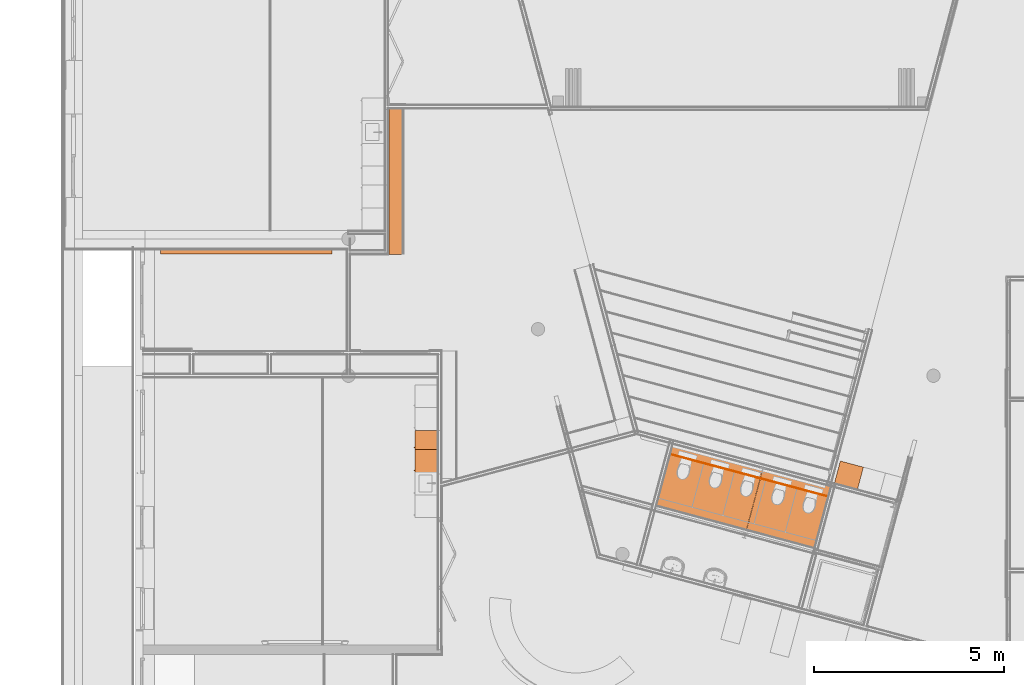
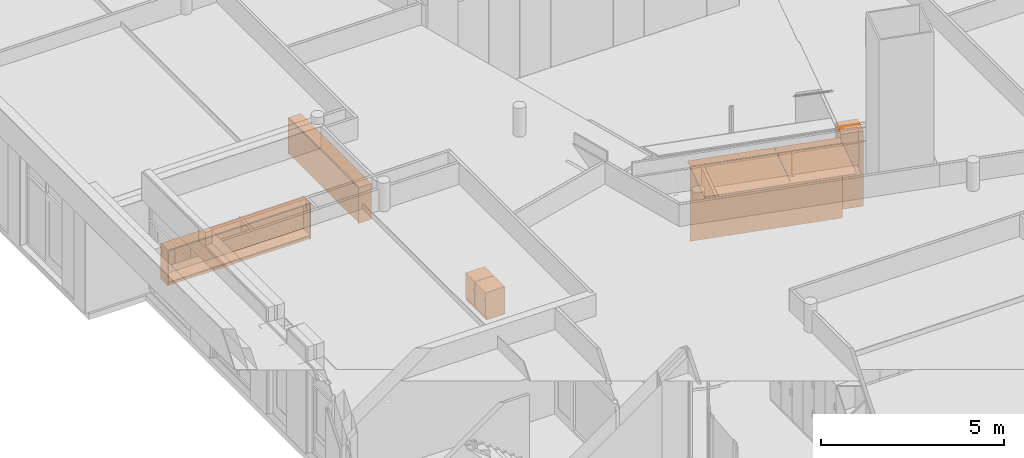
# One storey, part 124 of 167: 7 proxies.
"""IFC2X3 building model written with IfcOpenShell, lengths in millimetres."""

from ifc_helpers import new_model, entity, si_unit, converted_unit, derived_unit, money_unit, direction, frame, origin_with_axes, place, context, subcontext, project, spatial, faceted_brep, material, type_object, element, save


model = new_model("IFC2X3")

# Units and contexts
model_context = context("Model", 3, precision=0.01, world=origin_with_axes(), true_north=direction((0.0, 1.0)))
plan_context = context("Plan", 3, precision=0.01, world=origin_with_axes(), true_north=direction((0.0, 1.0)))
body_context = subcontext(model_context, "Body", "Model", "MODEL_VIEW")
ifc_project = project(units=[si_unit("LENGTHUNIT", "METRE", prefix="MILLI"), si_unit("AREAUNIT", "SQUARE_METRE"), si_unit("VOLUMEUNIT", "CUBIC_METRE"), converted_unit("PLANEANGLEUNIT", "DEGREE", entity("IfcPlaneAngleMeasure", 0.0174532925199), si_unit("PLANEANGLEUNIT", "RADIAN"), dimensions=[0, 0, 0, 0, 0, 0, 0]), si_unit("SOLIDANGLEUNIT", "STERADIAN"), money_unit("EUR"), converted_unit("TIMEUNIT", "Year", entity("IfcTimeMeasure", 31556926.0), si_unit("TIMEUNIT", "SECOND"), dimensions=[0, 0, 1, 0, 0, 0, 0]), si_unit("MASSUNIT", "GRAM", prefix="KILO"), si_unit("THERMODYNAMICTEMPERATUREUNIT", "DEGREE_CELSIUS"), si_unit("LUMINOUSINTENSITYUNIT", "LUMEN"), si_unit("ENERGYUNIT", "JOULE", prefix="MEGA"), derived_unit("THERMALCONDUCTANCEUNIT", [(si_unit("POWERUNIT", "WATT"), 1), (si_unit("LENGTHUNIT", "METRE"), -1), (si_unit("THERMODYNAMICTEMPERATUREUNIT", "KELVIN"), -1)]), derived_unit("SPECIFICHEATCAPACITYUNIT", [(si_unit("ENERGYUNIT", "JOULE"), 1), (si_unit("MASSUNIT", "GRAM", prefix="KILO"), -1), (si_unit("THERMODYNAMICTEMPERATUREUNIT", "KELVIN"), -1)]), derived_unit("MASSDENSITYUNIT", [(si_unit("MASSUNIT", "GRAM", prefix="KILO"), 1), (si_unit("VOLUMEUNIT", "CUBIC_METRE"), -1)])], contexts=[model_context, plan_context])

# Site, building, storey
site_placement = place(None, origin_with_axes())
site = spatial("IfcSite", under=ifc_project, at=site_placement, Name="Site", CompositionType="ELEMENT")
building_placement = place(site_placement, origin_with_axes())
building = spatial("IfcBuilding", under=site, at=building_placement, Name="Naam gebouw", CompositionType="ELEMENT")
storey_placement = place(building_placement, origin_with_axes())
storey = spatial("IfcBuildingStorey", under=building, at=storey_placement, Name="Begane grond", CompositionType="ELEMENT", Elevation=0.0)

# Proxies
building_element_proxy_type_1 = type_object("IfcBuildingElementProxyType", Name="Kast basis 1D 24", PredefinedType="NOTDEFINED")
proxy_1_placement = place(storey_placement, frame((8950.0, 16561.0, 0.0), z_axis=(0.0, 0.0, 1.0), x_axis=(0.0, -1.0, 0.0)))
element("IfcBuildingElementProxy", 1, at=proxy_1_placement, inside=storey, type_object=building_element_proxy_type_1, Name="__Object-x", context=body_context, shape_type="Brep", body=[
    faceted_brep([(0.0, 20.0, 0.0), (500.0, 20.0, 0.0), (500.0, 20.0, 100.0), (0.0, 20.0, 100.0), (0.0, 600.0, 0.0), (500.0, 600.0, 0.0), (500.0, 600.0, 100.0), (0.0, 600.0, 100.0)], [[[0, 1, 2, 3]], [[0, 4, 5, 1]], [[1, 5, 6, 2]], [[3, 2, 6, 7]], [[4, 0, 3, 7]], [[5, 4, 7, 6]]]),
    faceted_brep([(0.0, 20.0, 880.0), (20.0, 20.0, 880.0), (20.0, 20.0, 900.0), (0.0, 20.0, 900.0), (0.0, 600.0, 880.0), (20.0, 600.0, 880.0), (480.0, 600.0, 880.0), (500.0, 600.0, 880.0), (500.0, 20.0, 880.0), (480.0, 20.0, 880.0), (480.0, 20.0, 900.0), (500.0, 20.0, 900.0), (500.0, 600.0, 900.0), (480.0, 600.0, 900.0), (20.0, 600.0, 900.0), (0.0, 600.0, 900.0)], [[[0, 1, 2, 3]], [[0, 4, 5, 6, 7, 8, 9, 1]], [[1, 9, 10, 2]], [[3, 2, 10, 11, 12, 13, 14, 15]], [[4, 0, 3, 15]], [[5, 4, 15, 14]], [[6, 5, 14, 13]], [[7, 6, 13, 12]], [[8, 7, 12, 11]], [[9, 8, 11, 10]]]),
    faceted_brep([(0.0, 20.0, 100.0), (20.0, 20.0, 100.0), (20.0, 20.0, 120.0), (0.0, 20.0, 120.0), (0.0, 600.0, 100.0), (20.0, 600.0, 100.0), (480.0, 600.0, 100.0), (500.0, 600.0, 100.0), (500.0, 20.0, 100.0), (480.0, 20.0, 100.0), (480.0, 20.0, 120.0), (500.0, 20.0, 120.0), (500.0, 600.0, 120.0), (480.0, 600.0, 120.0), (20.0, 600.0, 120.0), (0.0, 600.0, 120.0)], [[[0, 1, 2, 3]], [[0, 4, 5, 6, 7, 8, 9, 1]], [[1, 9, 10, 2]], [[3, 2, 10, 11, 12, 13, 14, 15]], [[4, 0, 3, 15]], [[5, 4, 15, 14]], [[6, 5, 14, 13]], [[7, 6, 13, 12]], [[8, 7, 12, 11]], [[9, 8, 11, 10]]]),
    faceted_brep([(0.0, 20.0, 120.0), (20.0, 20.0, 120.0), (20.0, 20.0, 880.0), (0.0, 20.0, 880.0), (0.0, 600.0, 120.0), (500.0, 600.0, 120.0), (500.0, 20.0, 120.0), (480.0, 20.0, 120.0), (480.0, 580.0, 120.0), (20.0, 580.0, 120.0), (20.0, 580.0, 880.0), (480.0, 580.0, 880.0), (480.0, 20.0, 880.0), (500.0, 20.0, 880.0), (500.0, 600.0, 880.0), (0.0, 600.0, 880.0)], [[[0, 1, 2, 3]], [[0, 4, 5, 6, 7, 8, 9, 1]], [[1, 9, 10, 2]], [[3, 2, 10, 11, 12, 13, 14, 15]], [[4, 0, 3, 15]], [[5, 4, 15, 14]], [[6, 5, 14, 13]], [[7, 6, 13, 12]], [[8, 7, 12, 11]], [[9, 8, 11, 10]]]),
    faceted_brep([(480.0, 20.0, 480.0), (480.0, 580.0, 480.0), (480.0, 580.0, 500.0), (480.0, 20.0, 500.0), (20.0, 20.0, 480.0), (20.0, 580.0, 480.0), (20.0, 580.0, 500.0), (20.0, 20.0, 500.0)], [[[0, 1, 2, 3]], [[0, 4, 5, 1]], [[1, 5, 6, 2]], [[3, 2, 6, 7]], [[4, 0, 3, 7]], [[5, 4, 7, 6]]]),
    faceted_brep([(0.0, 0.0, 900.0), (500.0, 0.0, 900.0), (500.0, 0.0, 920.0), (0.0, 0.0, 920.0), (0.0, 600.0, 900.0), (500.0, 600.0, 900.0), (500.0, 600.0, 920.0), (0.0, 600.0, 920.0)], [[[0, 1, 2, 3]], [[0, 4, 5, 1]], [[1, 5, 6, 2]], [[3, 2, 6, 7]], [[4, 0, 3, 7]], [[5, 4, 7, 6]]]),
    faceted_brep([(1.5, 20.0, 101.5), (498.5, 20.0, 101.5), (498.5, 0.0, 101.5), (1.5, 0.0, 101.5), (1.5, 20.0, 898.5), (498.5, 20.0, 898.5), (498.5, 0.0, 898.5), (1.5, 0.0, 898.5)], [[[0, 1, 2, 3]], [[0, 4, 5, 1]], [[1, 5, 6, 2]], [[3, 2, 6, 7]], [[4, 0, 3, 7]], [[5, 4, 7, 6]]]),
    faceted_brep([(459.58655439, 0.0, 636.907798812), (456.985281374, 0.0, 633.014718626), (453.092201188, 0.0, 630.41344561), (448.5, 0.0, 629.5), (443.907798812, 0.0, 630.41344561), (440.014718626, 0.0, 633.014718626), (437.41344561, 0.0, 636.907798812), (436.5, 0.0, 641.5), (437.41344561, 0.0, 646.092201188), (440.014718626, 0.0, 649.985281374), (443.907798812, 0.0, 652.58655439), (448.5, 0.0, 653.5), (453.092201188, 0.0, 652.58655439), (456.985281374, 0.0, 649.985281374), (459.58655439, 0.0, 646.092201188), (460.5, 0.0, 641.5), (459.58655439, -25.0, 636.907798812), (456.985281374, -25.0, 633.014718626), (453.092201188, -25.0, 630.41344561), (448.5, -25.0, 629.5), (443.907798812, -25.0, 630.41344561), (440.014718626, -25.0, 633.014718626), (437.41344561, -25.0, 636.907798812), (436.5, -25.0, 641.5), (437.41344561, -25.0, 646.092201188), (440.014718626, -25.0, 649.985281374), (443.907798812, -25.0, 652.58655439), (448.5, -25.0, 653.5), (453.092201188, -25.0, 652.58655439), (456.985281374, -25.0, 649.985281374), (459.58655439, -25.0, 646.092201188), (460.5, -25.0, 641.5)], [[[0, 1, 2, 3, 4, 5, 6, 7, 8, 9, 10, 11, 12, 13, 14, 15]], [[1, 0, 16, 17]], [[2, 1, 17, 18]], [[3, 2, 18, 19]], [[4, 3, 19, 20]], [[5, 4, 20, 21]], [[6, 5, 21, 22]], [[7, 6, 22, 23]], [[8, 7, 23, 24]], [[9, 8, 24, 25]], [[10, 9, 25, 26]], [[11, 10, 26, 27]], [[12, 11, 27, 28]], [[13, 12, 28, 29]], [[14, 13, 29, 30]], [[15, 14, 30, 31]], [[0, 15, 31, 16]], [[16, 31, 30, 29, 28, 27, 26, 25, 24, 23, 22, 21, 20, 19, 18, 17]]]),
])
proxy_2_placement = place(storey_placement, frame((8950.0, 16061.0, 0.0), z_axis=(0.0, 0.0, 1.0), x_axis=(0.0, -1.0, 0.0)))
element("IfcBuildingElementProxy", 2, at=proxy_2_placement, inside=storey, type_object=building_element_proxy_type_1, Name="__Object-x", context=body_context, shape_type="Brep", body=[
    faceted_brep([(0.0, 20.0, 0.0), (600.0, 20.0, 0.0), (600.0, 20.0, 100.0), (0.0, 20.0, 100.0), (0.0, 600.0, 0.0), (600.0, 600.0, 0.0), (600.0, 600.0, 100.0), (0.0, 600.0, 100.0)], [[[0, 1, 2, 3]], [[0, 4, 5, 1]], [[1, 5, 6, 2]], [[3, 2, 6, 7]], [[4, 0, 3, 7]], [[5, 4, 7, 6]]]),
    faceted_brep([(0.0, 20.0, 880.0), (20.0, 20.0, 880.0), (20.0, 20.0, 900.0), (0.0, 20.0, 900.0), (0.0, 600.0, 880.0), (20.0, 600.0, 880.0), (580.0, 600.0, 880.0), (600.0, 600.0, 880.0), (600.0, 20.0, 880.0), (580.0, 20.0, 880.0), (580.0, 20.0, 900.0), (600.0, 20.0, 900.0), (600.0, 600.0, 900.0), (580.0, 600.0, 900.0), (20.0, 600.0, 900.0), (0.0, 600.0, 900.0)], [[[0, 1, 2, 3]], [[0, 4, 5, 6, 7, 8, 9, 1]], [[1, 9, 10, 2]], [[3, 2, 10, 11, 12, 13, 14, 15]], [[4, 0, 3, 15]], [[5, 4, 15, 14]], [[6, 5, 14, 13]], [[7, 6, 13, 12]], [[8, 7, 12, 11]], [[9, 8, 11, 10]]]),
    faceted_brep([(0.0, 20.0, 100.0), (20.0, 20.0, 100.0), (20.0, 20.0, 120.0), (0.0, 20.0, 120.0), (0.0, 600.0, 100.0), (20.0, 600.0, 100.0), (580.0, 600.0, 100.0), (600.0, 600.0, 100.0), (600.0, 20.0, 100.0), (580.0, 20.0, 100.0), (580.0, 20.0, 120.0), (600.0, 20.0, 120.0), (600.0, 600.0, 120.0), (580.0, 600.0, 120.0), (20.0, 600.0, 120.0), (0.0, 600.0, 120.0)], [[[0, 1, 2, 3]], [[0, 4, 5, 6, 7, 8, 9, 1]], [[1, 9, 10, 2]], [[3, 2, 10, 11, 12, 13, 14, 15]], [[4, 0, 3, 15]], [[5, 4, 15, 14]], [[6, 5, 14, 13]], [[7, 6, 13, 12]], [[8, 7, 12, 11]], [[9, 8, 11, 10]]]),
    faceted_brep([(0.0, 20.0, 120.0), (20.0, 20.0, 120.0), (20.0, 20.0, 880.0), (0.0, 20.0, 880.0), (0.0, 600.0, 120.0), (600.0, 600.0, 120.0), (600.0, 20.0, 120.0), (580.0, 20.0, 120.0), (580.0, 580.0, 120.0), (20.0, 580.0, 120.0), (20.0, 580.0, 880.0), (580.0, 580.0, 880.0), (580.0, 20.0, 880.0), (600.0, 20.0, 880.0), (600.0, 600.0, 880.0), (0.0, 600.0, 880.0)], [[[0, 1, 2, 3]], [[0, 4, 5, 6, 7, 8, 9, 1]], [[1, 9, 10, 2]], [[3, 2, 10, 11, 12, 13, 14, 15]], [[4, 0, 3, 15]], [[5, 4, 15, 14]], [[6, 5, 14, 13]], [[7, 6, 13, 12]], [[8, 7, 12, 11]], [[9, 8, 11, 10]]]),
    faceted_brep([(580.0, 20.0, 480.0), (580.0, 580.0, 480.0), (580.0, 580.0, 500.0), (580.0, 20.0, 500.0), (20.0, 20.0, 480.0), (20.0, 580.0, 480.0), (20.0, 580.0, 500.0), (20.0, 20.0, 500.0)], [[[0, 1, 2, 3]], [[0, 4, 5, 1]], [[1, 5, 6, 2]], [[3, 2, 6, 7]], [[4, 0, 3, 7]], [[5, 4, 7, 6]]]),
    faceted_brep([(0.0, 0.0, 900.0), (600.0, 0.0, 900.0), (600.0, 0.0, 920.0), (0.0, 0.0, 920.0), (0.0, 600.0, 900.0), (600.0, 600.0, 900.0), (600.0, 600.0, 920.0), (0.0, 600.0, 920.0)], [[[0, 1, 2, 3]], [[0, 4, 5, 1]], [[1, 5, 6, 2]], [[3, 2, 6, 7]], [[4, 0, 3, 7]], [[5, 4, 7, 6]]]),
    faceted_brep([(1.5, 20.0, 101.5), (598.5, 20.0, 101.5), (598.5, 0.0, 101.5), (1.5, 0.0, 101.5), (1.5, 20.0, 898.5), (598.5, 20.0, 898.5), (598.5, 0.0, 898.5), (1.5, 0.0, 898.5)], [[[0, 1, 2, 3]], [[0, 4, 5, 1]], [[1, 5, 6, 2]], [[3, 2, 6, 7]], [[4, 0, 3, 7]], [[5, 4, 7, 6]]]),
    faceted_brep([(559.58655439, 0.0, 636.907798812), (556.985281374, 0.0, 633.014718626), (553.092201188, 0.0, 630.41344561), (548.5, 0.0, 629.5), (543.907798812, 0.0, 630.41344561), (540.014718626, 0.0, 633.014718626), (537.41344561, 0.0, 636.907798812), (536.5, 0.0, 641.5), (537.41344561, 0.0, 646.092201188), (540.014718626, 0.0, 649.985281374), (543.907798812, 0.0, 652.58655439), (548.5, 0.0, 653.5), (553.092201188, 0.0, 652.58655439), (556.985281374, 0.0, 649.985281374), (559.58655439, 0.0, 646.092201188), (560.5, 0.0, 641.5), (559.58655439, -25.0, 636.907798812), (556.985281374, -25.0, 633.014718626), (553.092201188, -25.0, 630.41344561), (548.5, -25.0, 629.5), (543.907798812, -25.0, 630.41344561), (540.014718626, -25.0, 633.014718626), (537.41344561, -25.0, 636.907798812), (536.5, -25.0, 641.5), (537.41344561, -25.0, 646.092201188), (540.014718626, -25.0, 649.985281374), (543.907798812, -25.0, 652.58655439), (548.5, -25.0, 653.5), (553.092201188, -25.0, 652.58655439), (556.985281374, -25.0, 649.985281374), (559.58655439, -25.0, 646.092201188), (560.5, -25.0, 641.5)], [[[0, 1, 2, 3, 4, 5, 6, 7, 8, 9, 10, 11, 12, 13, 14, 15]], [[1, 0, 16, 17]], [[2, 1, 17, 18]], [[3, 2, 18, 19]], [[4, 3, 19, 20]], [[5, 4, 20, 21]], [[6, 5, 21, 22]], [[7, 6, 22, 23]], [[8, 7, 23, 24]], [[9, 8, 24, 25]], [[10, 9, 25, 26]], [[11, 10, 26, 27]], [[12, 11, 27, 28]], [[13, 12, 28, 29]], [[14, 13, 29, 30]], [[15, 14, 30, 31]], [[0, 15, 31, 16]], [[16, 31, 30, 29, 28, 27, 26, 25, 24, 23, 22, 21, 20, 19, 18, 17]]]),
])
ifc_material_1 = material(Name="ALG - BINNENAFWERKING")
building_element_proxy_type_2 = type_object("IfcBuildingElementProxyType", Name="ALG - BINNENAFWERKING 10", PredefinedType="NOTDEFINED")
proxy_3_placement = place(storey_placement, frame((15268.1443886, 14485.8704148, 2480.0), z_axis=(0.0, 0.0, 1.0), x_axis=(1.0, 0.0, 0.0)))
element("IfcBuildingElementProxy", 3, at=proxy_3_placement, inside=storey, type_object=building_element_proxy_type_2, material=ifc_material_1, Name="23__Vloer-x", context=body_context, shape_type="Brep", body=[
    faceted_brep([(2365.87087061, -632.380274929, 10.0), (2300.9123588, -614.974694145, 10.0), (2303.11232068, -606.764324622, 10.0), (2368.0708325, -624.169905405, 10.0), (2751.87508481, 808.207064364, 10.0), (386.392442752, 1442.03622801, 10.0), (0.0, 0.0, 10.0), (2365.48264205, -633.829163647, 10.0), (2300.9123588, -614.974694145, 0.0), (2365.87087061, -632.380274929, 0.0), (2303.11232068, -606.764324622, 0.0), (2368.0708325, -624.169905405, 0.0), (2751.87508481, 808.207064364, 0.0), (386.392442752, 1442.03622801, 0.0), (0.0, 0.0, 0.0), (2365.48264205, -633.829163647, 0.0)], [[[0, 1, 2, 3, 4, 5, 6, 7]], [[8, 1, 0, 9]], [[10, 2, 1, 8]], [[10, 11, 3, 2]], [[4, 3, 11, 12]], [[13, 5, 4, 12]], [[13, 14, 6, 5]], [[14, 15, 7, 6]], [[9, 0, 7, 15]], [[8, 9, 15, 14, 13, 12, 11, 10]]]),
    faceted_brep([(2436.14197448, -651.20936046, 10.0), (2371.18346266, -633.803779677, 10.0), (2370.7952341, -635.252668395, 10.0), (4153.48105304, -1112.92189394, 10.0), (4539.8734958, 329.114334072, 10.0), (2757.18767685, 806.783559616, 10.0), (2373.38342454, -625.593410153, 10.0), (2438.34193636, -642.998990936, 10.0), (2371.18346266, -633.803779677, 0.0), (2436.14197448, -651.20936046, 0.0), (2370.7952341, -635.252668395, 0.0), (4153.48105304, -1112.92189394, 0.0), (4539.8734958, 329.114334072, 0.0), (2757.18767685, 806.783559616, 0.0), (2373.38342454, -625.593410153, 0.0), (2438.34193636, -642.998990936, 0.0)], [[[0, 1, 2, 3, 4, 5, 6, 7]], [[8, 1, 0, 9]], [[10, 2, 1, 8]], [[3, 2, 10, 11]], [[4, 3, 11, 12]], [[4, 12, 13, 5]], [[13, 14, 6, 5]], [[15, 7, 6, 14]], [[9, 0, 7, 15]], [[9, 15, 14, 13, 12, 11, 10, 8]]]),
    faceted_brep([(390.274728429, 1456.52511541, 10.0), (2755.75737049, 822.695951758, 10.0), (2824.89110586, 1080.70656468, 10.0), (459.4084638, 1714.53572833, 10.0), (390.274728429, 1456.52511541, 0.0), (2755.75737049, 822.695951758, 0.0), (2824.89110586, 1080.70656468, 0.0), (459.4084638, 1714.53572833, 0.0)], [[[0, 1, 2, 3]], [[4, 5, 1, 0]], [[5, 6, 2, 1]], [[3, 2, 6, 7]], [[3, 7, 4, 0]], [[7, 6, 5, 4]]]),
    faceted_brep([(4612.88951684, 601.613834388, 0.0), (2830.2036979, 1079.28305993, 0.0), (2830.2036979, 1079.28305993, 10.0), (4612.88951684, 601.613834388, 10.0), (4543.75578147, 343.603221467, 0.0), (2761.06996253, 821.27244701, 0.0), (2761.06996253, 821.27244701, 10.0), (4543.75578147, 343.603221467, 10.0)], [[[0, 1, 2, 3]], [[4, 5, 1, 0]], [[5, 6, 2, 1]], [[3, 2, 6, 7]], [[0, 3, 7, 4]], [[7, 6, 5, 4]]]),
])
building_element_proxy_type_3 = type_object("IfcBuildingElementProxyType", Name="Kast hoog 1D 24", PredefinedType="NOTDEFINED")
proxy_4_placement = place(storey_placement, frame((20129.1201058, 15758.6440307, 0.0), z_axis=(0.0, 0.0, 1.0), x_axis=(-0.965925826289, 0.258819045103, 0.0)))
element("IfcBuildingElementProxy", 4, at=proxy_4_placement, inside=storey, type_object=building_element_proxy_type_3, Name="__Object-x", context=body_context, shape_type="Brep", body=[
    faceted_brep([(0.0, 0.0, 0.0), (0.0, 0.0, 90.0), (-628.394127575, 0.0, 90.0), (-628.394127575, 0.0, 0.0), (0.0, 600.0, 0.0), (0.0, 600.0, 90.0), (-628.394127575, 600.0, 90.0), (-628.394127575, 600.0, 0.0)], [[[0, 1, 2, 3]], [[4, 5, 1, 0]], [[1, 5, 6, 2]], [[3, 2, 6, 7]], [[0, 3, 7, 4]], [[7, 6, 5, 4]]]),
    faceted_brep([(0.0, 0.0, 2484.84598541), (0.0, 0.0, 2504.84598541), (-20.0, 0.0, 2504.84598541), (-20.0, 0.0, 2484.84598541), (0.0, 600.0, 2484.84598541), (0.0, 600.0, 2504.84598541), (-20.0, 600.0, 2504.84598541), (-608.394127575, 600.0, 2504.84598541), (-628.394127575, 600.0, 2504.84598541), (-628.394127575, 0.0, 2504.84598541), (-608.394127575, 0.0, 2504.84598541), (-608.394127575, 0.0, 2484.84598541), (-628.394127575, 0.0, 2484.84598541), (-628.394127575, 600.0, 2484.84598541), (-608.394127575, 600.0, 2484.84598541), (-20.0, 600.0, 2484.84598541)], [[[0, 1, 2, 3]], [[4, 5, 1, 0]], [[1, 5, 6, 7, 8, 9, 10, 2]], [[3, 2, 10, 11]], [[0, 3, 11, 12, 13, 14, 15, 4]], [[15, 6, 5, 4]], [[14, 7, 6, 15]], [[13, 8, 7, 14]], [[12, 9, 8, 13]], [[11, 10, 9, 12]]]),
    faceted_brep([(0.0, 0.0, 90.0), (0.0, 0.0, 110.0), (-20.0, 0.0, 110.0), (-20.0, 0.0, 90.0), (0.0, 600.0, 90.0), (0.0, 600.0, 110.0), (-20.0, 600.0, 110.0), (-608.394127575, 600.0, 110.0), (-628.394127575, 600.0, 110.0), (-628.394127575, 0.0, 110.0), (-608.394127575, 0.0, 110.0), (-608.394127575, 0.0, 90.0), (-628.394127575, 0.0, 90.0), (-628.394127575, 600.0, 90.0), (-608.394127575, 600.0, 90.0), (-20.0, 600.0, 90.0)], [[[0, 1, 2, 3]], [[4, 5, 1, 0]], [[1, 5, 6, 7, 8, 9, 10, 2]], [[3, 2, 10, 11]], [[0, 3, 11, 12, 13, 14, 15, 4]], [[15, 6, 5, 4]], [[14, 7, 6, 15]], [[13, 8, 7, 14]], [[12, 9, 8, 13]], [[11, 10, 9, 12]]]),
    faceted_brep([(0.0, 0.0, 110.0), (0.0, 0.0, 2484.84598541), (-20.0, 0.0, 2484.84598541), (-20.0, 0.0, 110.0), (0.0, 600.0, 110.0), (0.0, 600.0, 2484.84598541), (-628.394127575, 600.0, 2484.84598541), (-628.394127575, 0.0, 2484.84598541), (-608.394127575, 0.0, 2484.84598541), (-608.394127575, 580.0, 2484.84598541), (-20.0, 580.0, 2484.84598541), (-20.0, 580.0, 110.0), (-608.394127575, 580.0, 110.0), (-608.394127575, 0.0, 110.0), (-628.394127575, 0.0, 110.0), (-628.394127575, 600.0, 110.0)], [[[0, 1, 2, 3]], [[4, 5, 1, 0]], [[1, 5, 6, 7, 8, 9, 10, 2]], [[3, 2, 10, 11]], [[0, 3, 11, 12, 13, 14, 15, 4]], [[15, 6, 5, 4]], [[14, 7, 6, 15]], [[13, 8, 7, 14]], [[12, 9, 8, 13]], [[11, 10, 9, 12]]]),
    faceted_brep([(-608.394127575, 0.0, 472.474330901), (-608.394127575, 0.0, 492.474330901), (-608.394127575, 580.0, 492.474330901), (-608.394127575, 580.0, 472.474330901), (-20.0, 0.0, 472.474330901), (-20.0, 0.0, 492.474330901), (-20.0, 580.0, 492.474330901), (-20.0, 580.0, 472.474330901)], [[[0, 1, 2, 3]], [[4, 5, 1, 0]], [[1, 5, 6, 2]], [[3, 2, 6, 7]], [[0, 3, 7, 4]], [[7, 6, 5, 4]]]),
    faceted_brep([(-608.394127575, 0.0, 874.948661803), (-608.394127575, 0.0, 894.948661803), (-608.394127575, 580.0, 894.948661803), (-608.394127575, 580.0, 874.948661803), (-20.0, 0.0, 874.948661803), (-20.0, 0.0, 894.948661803), (-20.0, 580.0, 894.948661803), (-20.0, 580.0, 874.948661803)], [[[0, 1, 2, 3]], [[4, 5, 1, 0]], [[1, 5, 6, 2]], [[3, 2, 6, 7]], [[0, 3, 7, 4]], [[7, 6, 5, 4]]]),
    faceted_brep([(-608.394127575, 0.0, 1277.4229927), (-608.394127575, 0.0, 1297.4229927), (-608.394127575, 580.0, 1297.4229927), (-608.394127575, 580.0, 1277.4229927), (-20.0, 0.0, 1277.4229927), (-20.0, 0.0, 1297.4229927), (-20.0, 580.0, 1297.4229927), (-20.0, 580.0, 1277.4229927)], [[[0, 1, 2, 3]], [[4, 5, 1, 0]], [[1, 5, 6, 2]], [[3, 2, 6, 7]], [[0, 3, 7, 4]], [[7, 6, 5, 4]]]),
    faceted_brep([(-608.394127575, 0.0, 1679.89732361), (-608.394127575, 0.0, 1699.89732361), (-608.394127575, 580.0, 1699.89732361), (-608.394127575, 580.0, 1679.89732361), (-20.0, 0.0, 1679.89732361), (-20.0, 0.0, 1699.89732361), (-20.0, 580.0, 1699.89732361), (-20.0, 580.0, 1679.89732361)], [[[0, 1, 2, 3]], [[4, 5, 1, 0]], [[1, 5, 6, 2]], [[3, 2, 6, 7]], [[0, 3, 7, 4]], [[7, 6, 5, 4]]]),
    faceted_brep([(-608.394127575, 0.0, 2082.37165451), (-608.394127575, 0.0, 2102.37165451), (-608.394127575, 580.0, 2102.37165451), (-608.394127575, 580.0, 2082.37165451), (-20.0, 0.0, 2082.37165451), (-20.0, 0.0, 2102.37165451), (-20.0, 580.0, 2102.37165451), (-20.0, 580.0, 2082.37165451)], [[[0, 1, 2, 3]], [[4, 5, 1, 0]], [[1, 5, 6, 2]], [[3, 2, 6, 7]], [[0, 3, 7, 4]], [[7, 6, 5, 4]]]),
])
building_element_proxy_type_4 = type_object("IfcBuildingElementProxyType", Name="Boekenplank 01 24", PredefinedType="NOTDEFINED")
proxy_5_placement = place(storey_placement, frame((8650.0, 25021.5457572, 0.0), z_axis=(0.0, 0.0, 1.0), x_axis=(0.0, 1.0, 0.0)))
element("IfcBuildingElementProxy", 5, at=proxy_5_placement, inside=storey, type_object=building_element_proxy_type_4, Name="__Object-x", context=body_context, shape_type="Brep", body=[
    faceted_brep([(-3819.04575717, 400.0, 20.0), (-3819.04575717, 380.0, 20.0), (-3819.04575717, 380.0, 1180.0), (-3819.04575717, 400.0, 1180.0), (-20.0, 400.0, 20.0), (-20.0, 380.0, 20.0), (-20.0, 380.0, 1180.0), (-20.0, 400.0, 1180.0)], [[[0, 1, 2, 3]], [[0, 4, 5, 1]], [[1, 5, 6, 2]], [[3, 2, 6, 7]], [[4, 0, 3, 7]], [[5, 4, 7, 6]]]),
    faceted_brep([(-3819.04575717, 380.0, 0.0), (-3819.04575717, 0.0, 0.0), (-3819.04575717, 0.0, 30.0), (-3819.04575717, 380.0, 30.0), (-20.0, 380.0, 0.0), (-20.0, 0.0, 0.0), (-20.0, 0.0, 30.0), (-20.0, 380.0, 30.0)], [[[0, 1, 2, 3]], [[0, 4, 5, 1]], [[1, 5, 6, 2]], [[3, 2, 6, 7]], [[4, 0, 3, 7]], [[5, 4, 7, 6]]]),
    faceted_brep([(-3819.04575717, 380.0, 1170.0), (-3819.04575717, 0.0, 1170.0), (-3819.04575717, 0.0, 1200.0), (-3819.04575717, 380.0, 1200.0), (-20.0, 380.0, 1170.0), (-20.0, 0.0, 1170.0), (-20.0, 0.0, 1200.0), (-20.0, 380.0, 1200.0)], [[[0, 1, 2, 3]], [[0, 4, 5, 1]], [[1, 5, 6, 2]], [[3, 2, 6, 7]], [[4, 0, 3, 7]], [[5, 4, 7, 6]]]),
    faceted_brep([(-20.0, 0.0, 0.0), (0.0, 0.0, 0.0), (0.0, 0.0, 1200.0), (-20.0, 0.0, 1200.0), (-20.0, 400.0, 0.0), (0.0, 400.0, 0.0), (0.0, 400.0, 1200.0), (-20.0, 400.0, 1200.0)], [[[0, 1, 2, 3]], [[0, 4, 5, 1]], [[1, 5, 6, 2]], [[3, 2, 6, 7]], [[4, 0, 3, 7]], [[5, 4, 7, 6]]]),
    faceted_brep([(-3819.04575717, 400.0, 0.0), (-3839.04575717, 400.0, 0.0), (-3839.04575717, 400.0, 1200.0), (-3819.04575717, 400.0, 1200.0), (-3819.04575717, 0.0, 0.0), (-3839.04575717, 0.0, 0.0), (-3839.04575717, 0.0, 1200.0), (-3819.04575717, 0.0, 1200.0)], [[[0, 1, 2, 3]], [[0, 4, 5, 1]], [[1, 5, 6, 2]], [[3, 2, 6, 7]], [[4, 0, 3, 7]], [[5, 4, 7, 6]]]),
])
proxy_6_placement = place(storey_placement, frame((6760.0, 21200.0, 0.0), z_axis=(0.0, 0.0, 1.0), x_axis=(1.0, 0.0, 0.0)))
element("IfcBuildingElementProxy", 6, at=proxy_6_placement, inside=storey, type_object=building_element_proxy_type_4, Name="__Object-x", context=body_context, shape_type="Brep", body=[
    faceted_brep([(-4480.0, 400.0, 120.0), (-4480.0, 380.0, 120.0), (-4480.0, 380.0, 1180.0), (-4480.0, 400.0, 1180.0), (-20.0, 400.0, 120.0), (-20.0, 380.0, 120.0), (-20.0, 380.0, 1180.0), (-20.0, 400.0, 1180.0)], [[[0, 1, 2, 3]], [[0, 4, 5, 1]], [[1, 5, 6, 2]], [[3, 2, 6, 7]], [[4, 0, 3, 7]], [[5, 4, 7, 6]]]),
    faceted_brep([(-4480.0, 380.0, 100.0), (-4480.0, 0.0, 100.0), (-4480.0, 0.0, 130.0), (-4480.0, 380.0, 130.0), (-20.0, 380.0, 100.0), (-20.0, 0.0, 100.0), (-20.0, 0.0, 130.0), (-20.0, 380.0, 130.0)], [[[0, 1, 2, 3]], [[0, 4, 5, 1]], [[1, 5, 6, 2]], [[3, 2, 6, 7]], [[4, 0, 3, 7]], [[5, 4, 7, 6]]]),
    faceted_brep([(-4480.0, 380.0, 1170.0), (-4480.0, 0.0, 1170.0), (-4480.0, 0.0, 1200.0), (-4480.0, 380.0, 1200.0), (-20.0, 380.0, 1170.0), (-20.0, 0.0, 1170.0), (-20.0, 0.0, 1200.0), (-20.0, 380.0, 1200.0)], [[[0, 1, 2, 3]], [[0, 4, 5, 1]], [[1, 5, 6, 2]], [[3, 2, 6, 7]], [[4, 0, 3, 7]], [[5, 4, 7, 6]]]),
    faceted_brep([(-20.0, 0.0, 100.0), (0.0, 0.0, 100.0), (0.0, 0.0, 1200.0), (-20.0, 0.0, 1200.0), (-20.0, 400.0, 100.0), (0.0, 400.0, 100.0), (0.0, 400.0, 1200.0), (-20.0, 400.0, 1200.0)], [[[0, 1, 2, 3]], [[0, 4, 5, 1]], [[1, 5, 6, 2]], [[3, 2, 6, 7]], [[4, 0, 3, 7]], [[5, 4, 7, 6]]]),
    faceted_brep([(-4480.0, 400.0, 100.0), (-4500.0, 400.0, 100.0), (-4500.0, 400.0, 1200.0), (-4480.0, 400.0, 1200.0), (-4480.0, 0.0, 100.0), (-4500.0, 0.0, 100.0), (-4500.0, 0.0, 1200.0), (-4480.0, 0.0, 1200.0)], [[[0, 1, 2, 3]], [[0, 4, 5, 1]], [[1, 5, 6, 2]], [[3, 2, 6, 7]], [[4, 0, 3, 7]], [[5, 4, 7, 6]]]),
    faceted_brep([(-4480.0, 400.0, 0.0), (-4480.0, 380.0, 0.0), (-4480.0, 380.0, 100.0), (-4480.0, 400.0, 100.0), (-20.0, 400.0, 0.0), (-20.0, 380.0, 0.0), (-20.0, 380.0, 100.0), (-20.0, 400.0, 100.0)], [[[0, 1, 2, 3]], [[0, 4, 5, 1]], [[1, 5, 6, 2]], [[3, 2, 6, 7]], [[4, 0, 3, 7]], [[5, 4, 7, 6]]]),
    faceted_brep([(-4500.0, 400.0, 0.0), (-4500.0, 0.0, 0.0), (-4500.0, 0.0, 100.0), (-4500.0, 400.0, 100.0), (-4480.0, 400.0, 0.0), (-4480.0, 0.0, 0.0), (-4480.0, 0.0, 100.0), (-4480.0, 400.0, 100.0)], [[[0, 1, 2, 3]], [[0, 4, 5, 1]], [[1, 5, 6, 2]], [[3, 2, 6, 7]], [[4, 0, 3, 7]], [[5, 4, 7, 6]]]),
    faceted_brep([(-20.0, 400.0, 0.0), (-20.0, 0.0, 0.0), (-20.0, 0.0, 100.0), (-20.0, 400.0, 100.0), (0.0, 400.0, 0.0), (0.0, 0.0, 0.0), (0.0, 0.0, 100.0), (0.0, 400.0, 100.0)], [[[0, 1, 2, 3]], [[0, 4, 5, 1]], [[1, 5, 6, 2]], [[3, 2, 6, 7]], [[4, 0, 3, 7]], [[5, 4, 7, 6]]]),
    faceted_brep([(-4480.0, 40.0, 0.0), (-4480.0, 20.0, 0.0), (-4480.0, 20.0, 100.0), (-4480.0, 40.0, 100.0), (-20.0, 40.0, 0.0), (-20.0, 20.0, 0.0), (-20.0, 20.0, 100.0), (-20.0, 40.0, 100.0)], [[[0, 1, 2, 3]], [[0, 4, 5, 1]], [[1, 5, 6, 2]], [[3, 2, 6, 7]], [[4, 0, 3, 7]], [[5, 4, 7, 6]]]),
])
ifc_material_2 = material(Name="_TenW_22_Gipsplaat watervast")
building_element_proxy_type_5 = type_object("IfcBuildingElementProxyType", Name="_TenW_22_Gipsvezelplaat watervast 15", PredefinedType="NOTDEFINED")
proxy_7_placement = place(storey_placement, frame((19856.3141757, 14802.0437966, 0.0), z_axis=(0.0, 0.0, 1.0), x_axis=(-0.965925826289, 0.258819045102, 0.0)))
element("IfcBuildingElementProxy", 7, at=proxy_7_placement, inside=storey, type_object=building_element_proxy_type_5, material=ifc_material_2, Name="22__Wand-x", context=body_context, shape_type="Brep", body=[
    faceted_brep([(1968.3221655, -15.0, 2445.5), (1968.3221655, -15.0, 2437.0), (1828.3221655, -15.0, 2437.0), (1828.3221655, -15.0, 2445.5), (1895.5721655, -15.0, 2445.5), (1895.5721655, -15.0, 2490.0), (49.9999999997, -15.0, 2490.0), (49.9999999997, -15.0, 0.0), (4350.0, -15.0, 0.0), (4350.0, -15.0, 2490.0), (1901.0721655, -15.0, 2490.0), (1901.0721655, -15.0, 2445.5), (1968.3221655, 0.0, 2437.0), (1968.3221655, 0.0, 2445.5), (1828.3221655, 0.0, 2437.0), (1828.3221655, 0.0, 2445.5), (1895.5721655, 0.0, 2445.5), (1895.5721655, 0.0, 2490.0), (49.9999999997, 0.0, 2490.0), (49.9999999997, 0.0, 0.0), (4350.0, 0.0, 0.0), (4350.0, 0.0, 2490.0), (1901.0721655, 0.0, 2490.0), (1901.0721655, 0.0, 2445.5)], [[[0, 1, 2, 3, 4, 5, 6, 7, 8, 9, 10, 11]], [[12, 1, 0, 13]], [[14, 2, 1, 12]], [[15, 3, 2, 14]], [[16, 4, 3, 15]], [[16, 17, 5, 4]], [[6, 5, 17, 18]], [[6, 18, 19, 7]], [[7, 19, 20, 8]], [[9, 8, 20, 21]], [[21, 22, 10, 9]], [[23, 11, 10, 22]], [[13, 0, 11, 23]], [[13, 23, 22, 21, 20, 19, 18, 17, 16, 15, 14, 12]]]),
])

save(model, "model.ifc")
